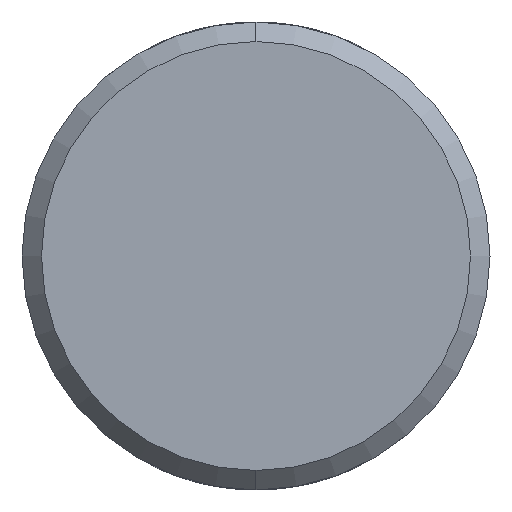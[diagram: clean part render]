
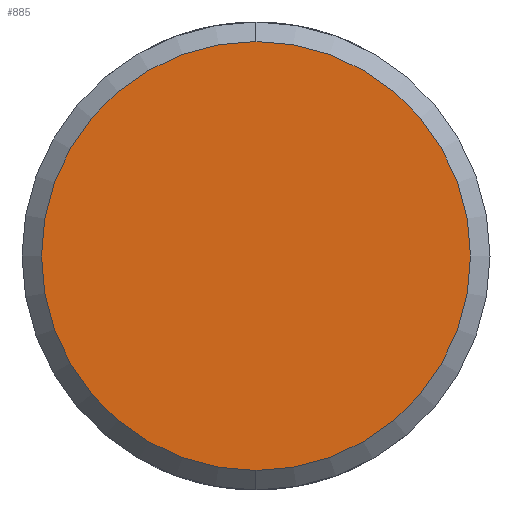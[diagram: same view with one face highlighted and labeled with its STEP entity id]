
A CAD part, left-side view. The second image highlights one B-rep face of the part: STEP entity #885.
In plain terms, the highlighted planar face has unit normal (-1, 0, 0).
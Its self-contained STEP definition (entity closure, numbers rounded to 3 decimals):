
#46 = DIRECTION ( 'NONE',  ( -1., 0., 0. ) ) ;
#58 = EDGE_CURVE ( 'NONE', #432, #459, #744, .T. ) ;
#69 = EDGE_CURVE ( 'NONE', #459, #432, #126, .T. ) ;
#79 = AXIS2_PLACEMENT_3D ( 'NONE', #817, #46, #970 ) ;
#126 = CIRCLE ( 'NONE', #79, 5.5 ) ;
#190 = FACE_OUTER_BOUND ( 'NONE', #946, .T. ) ;
#200 = DIRECTION ( 'NONE',  ( 0., 0., -1. ) ) ;
#213 = CARTESIAN_POINT ( 'NONE',  ( -97., 0., 0. ) ) ;
#228 = PLANE ( 'NONE',  #645 ) ;
#432 = VERTEX_POINT ( 'NONE', #853 ) ;
#459 = VERTEX_POINT ( 'NONE', #718 ) ;
#618 = AXIS2_PLACEMENT_3D ( 'NONE', #213, #894, #200 ) ;
#645 = AXIS2_PLACEMENT_3D ( 'NONE', #694, #767, #995 ) ;
#694 = CARTESIAN_POINT ( 'NONE',  ( -97., 0., 0. ) ) ;
#718 = CARTESIAN_POINT ( 'NONE',  ( -97., 0., -5.5 ) ) ;
#744 = CIRCLE ( 'NONE', #618, 5.5 ) ;
#767 = DIRECTION ( 'NONE',  ( 1., 0., 0. ) ) ;
#778 = ORIENTED_EDGE ( 'NONE', *, *, #69, .T. ) ;
#817 = CARTESIAN_POINT ( 'NONE',  ( -97., 0., 0. ) ) ;
#853 = CARTESIAN_POINT ( 'NONE',  ( -97., 0., 5.5 ) ) ;
#885 = ADVANCED_FACE ( 'NONE', ( #190 ), #228, .F. ) ;
#894 = DIRECTION ( 'NONE',  ( -1., 0., 0. ) ) ;
#946 = EDGE_LOOP ( 'NONE', ( #778, #986 ) ) ;
#970 = DIRECTION ( 'NONE',  ( 0., 0., -1. ) ) ;
#986 = ORIENTED_EDGE ( 'NONE', *, *, #58, .T. ) ;
#995 = DIRECTION ( 'NONE',  ( 0., 0., -1. ) ) ;
